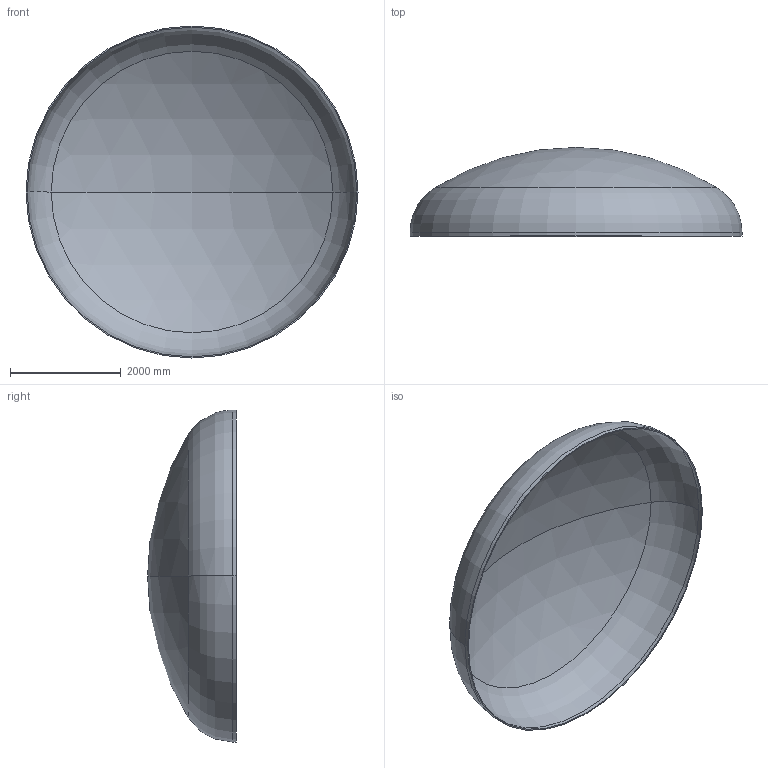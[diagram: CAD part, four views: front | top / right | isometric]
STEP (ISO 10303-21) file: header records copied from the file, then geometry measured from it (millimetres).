
FILE_DESCRIPTION (( 'STEP AP203' ), '1' );
FILE_NAME ('DIN 28013 Korbbogenform_-_Boden DIN 28013 - 6000 x 70 - I - s=21.step', '2016-07-04T10:36:05', ( '' ), ( '' ), 'SwSTEP 2.0', 'SolidWorks 2013', '' );
FILE_SCHEMA (( 'CONFIG_CONTROL_DESIGN' ));
Length unit declared in the file: millimetre
Products named in the file (1): DIN 28013 Korbbogenform_-_Boden DIN 28013 - 6000 x 70 - I - s=21
Bounding box: 6000 x 1605.17 x 6000 mm (x, y, z)
Volume: 846387606.8 mm3; surface area: 81003689.9 mm2
Topology: 1 solids, 1 shells, 13 faces, 24 edges, 14 vertices
Faces by surface type: torus 4, cylinder 4, sphere 4, plane 1
Entity records: 407 total; most frequent: DIRECTION 72, CARTESIAN_POINT 52, ORIENTED_EDGE 48, AXIS2_PLACEMENT_3D 34, EDGE_CURVE 24, CIRCLE 20, VERTEX_POINT 14, EDGE_LOOP 14
